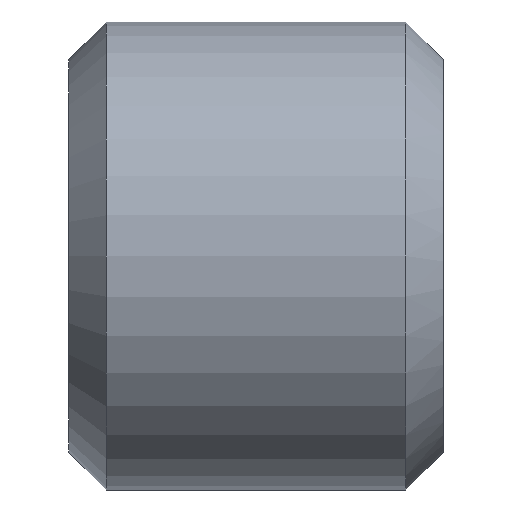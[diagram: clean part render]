
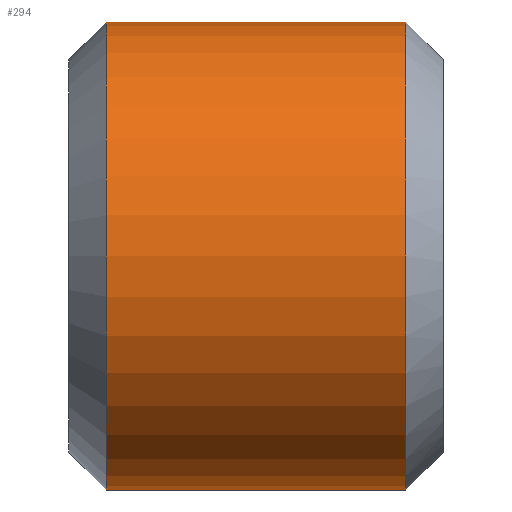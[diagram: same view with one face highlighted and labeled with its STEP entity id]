
A CAD part, left-side view. The second image highlights one B-rep face of the part: STEP entity #294.
In plain terms, the highlighted cylindrical face has radius 12.5 mm (diameter 25 mm), a partial arc.
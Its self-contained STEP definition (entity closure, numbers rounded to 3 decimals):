
#70=CARTESIAN_POINT('Vertex',(0.,2.,-12.5)) ;
#77=CARTESIAN_POINT('Vertex',(0.,2.,12.5)) ;
#187=CARTESIAN_POINT('Axis2P3D Location',(0.,2.,0.)) ;
#208=CARTESIAN_POINT('Vertex',(0.,18.,-12.5)) ;
#210=CARTESIAN_POINT('Vertex',(0.,18.,12.5)) ;
#213=CARTESIAN_POINT('Line Origine',(0.,20.,12.5)) ;
#218=CARTESIAN_POINT('Line Origine',(0.,20.,-12.5)) ;
#278=CARTESIAN_POINT('Axis2P3D Location',(0.,20.,0.)) ;
#283=CARTESIAN_POINT('Axis2P3D Location',(0.,18.,0.)) ;
#188=DIRECTION('Axis2P3D Direction',(-0.,1.,0.)) ;
#214=DIRECTION('Vector Direction',(0.,-1.,0.)) ;
#219=DIRECTION('Vector Direction',(0.,-1.,0.)) ;
#279=DIRECTION('Axis2P3D Direction',(0.,-1.,-0.)) ;
#280=DIRECTION('Axis2P3D XDirection',(0.,-0.,1.)) ;
#284=DIRECTION('Axis2P3D Direction',(0.,-1.,-0.)) ;
#189=AXIS2_PLACEMENT_3D('Circle Axis2P3D',#187,#188,$) ;
#281=AXIS2_PLACEMENT_3D('Cylinder Axis2P3D',#278,#279,#280) ;
#285=AXIS2_PLACEMENT_3D('Circle Axis2P3D',#283,#284,$) ;
#289=ORIENTED_EDGE('',*,*,#217,.F.) ;
#290=ORIENTED_EDGE('',*,*,#287,.T.) ;
#291=ORIENTED_EDGE('',*,*,#222,.T.) ;
#292=ORIENTED_EDGE('',*,*,#191,.T.) ;
#215=VECTOR('Line Direction',#214,1.) ;
#220=VECTOR('Line Direction',#219,1.) ;
#294=ADVANCED_FACE('Importato1',(#293),#282,.T.) ;
#190=CIRCLE('generated circle',#189,12.5) ;
#286=CIRCLE('generated circle',#285,12.5) ;
#282=CYLINDRICAL_SURFACE('generated cylinder',#281,12.5) ;
#191=EDGE_CURVE('',#71,#78,#190,.T.) ;
#217=EDGE_CURVE('',#211,#78,#216,.T.) ;
#222=EDGE_CURVE('',#209,#71,#221,.T.) ;
#287=EDGE_CURVE('',#211,#209,#286,.T.) ;
#288=EDGE_LOOP('',(#289,#290,#291,#292)) ;
#293=FACE_OUTER_BOUND('',#288,.T.) ;
#216=LINE('Line',#213,#215) ;
#221=LINE('Line',#218,#220) ;
#71=VERTEX_POINT('',#70) ;
#78=VERTEX_POINT('',#77) ;
#209=VERTEX_POINT('',#208) ;
#211=VERTEX_POINT('',#210) ;
